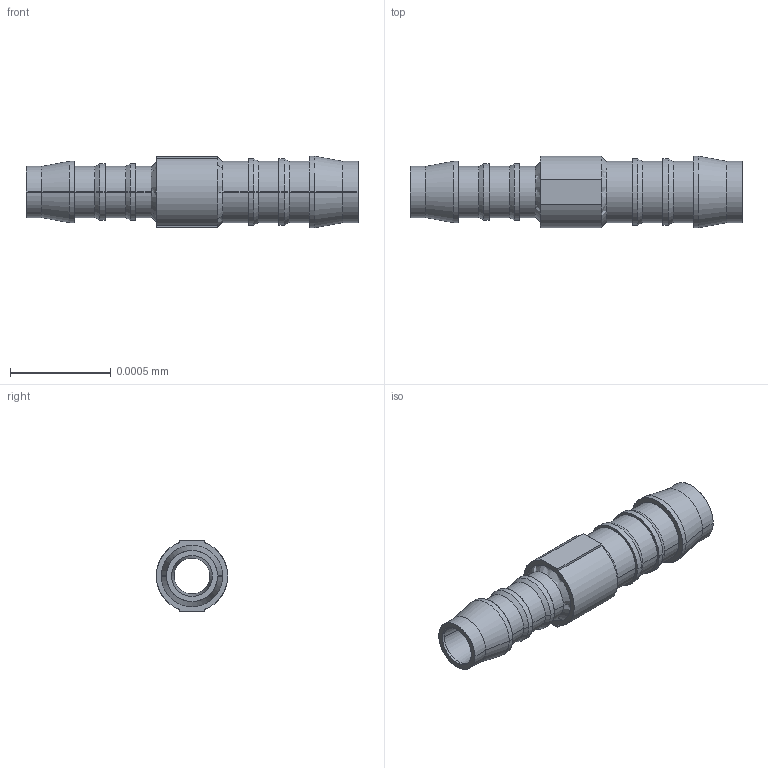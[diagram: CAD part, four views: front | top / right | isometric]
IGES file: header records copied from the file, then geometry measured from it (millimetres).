
Start section: SolidWorks IGES file using analytic representation for surfaces
Global section: file name: K:\Disegni Esecutivi\SERIE 14000\DOK\IGES\140400095FS00.IGS; native system: SolidWorks 2020; preprocessor: SolidWorks 2020; author: cad06; date: 240507.164720; units: mil
Bounding box: 0 x 0 x 0 mm (x, y, z)
Surface area: 0 mm2 (no closed solid volume)
Topology: 0 solids, 0 shells, 77 faces, 864 edges, 864 vertices
Faces by surface type: revolution 54, bspline 23
